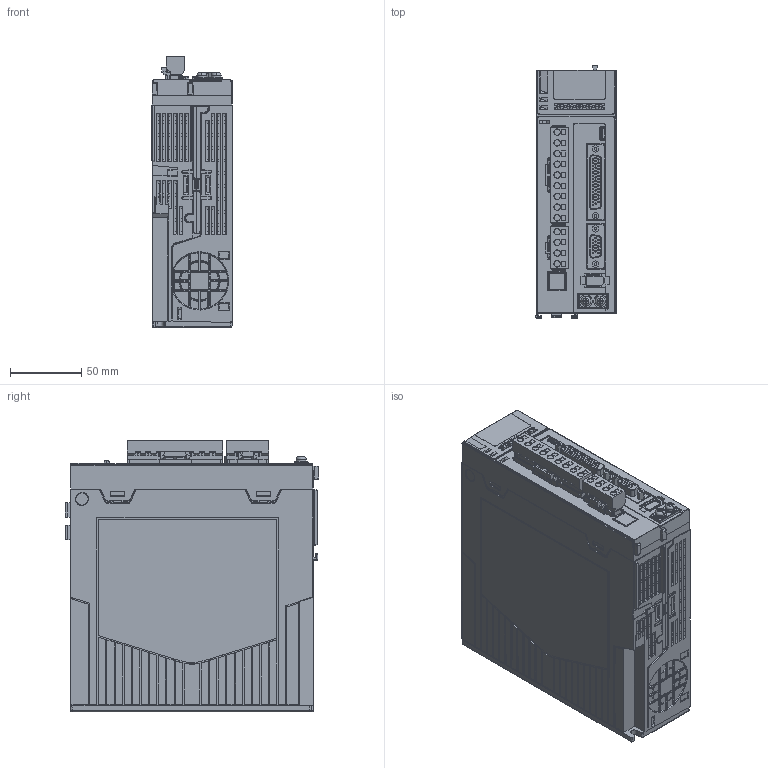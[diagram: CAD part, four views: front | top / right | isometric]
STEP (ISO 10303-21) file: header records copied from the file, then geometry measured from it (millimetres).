
FILE_DESCRIPTION((''),'2;1');
FILE_NAME('SV670P-SIZE-B_ASM_ASM','2022-09-28T',('l115853'),(''),'CREO PARAMETRIC BY PTC INC, 2015290','CREO PARAMETRIC BY PTC INC, 2015290','');
FILE_SCHEMA(('AUTOMOTIVE_DESIGN { 1 0 10303 214 1 1 1 1 }'));
Products named in the file (6): MSBR-5; MSBR-4; MSBR-3; MSBR-2; MSBR-1; SV670P-SIZE-B_ASM_ASM
Assembly tree (5 placements, depth 2):
  SV670P-SIZE-B_ASM_ASM
    MSBR-5
    MSBR-4
    MSBR-3
    MSBR-2
    MSBR-1
Bounding box: 56.09 x 177.5 x 190.2 mm (x, y, z)
Volume: 1649618.5 mm3; surface area: 123145.1 mm2
Topology: 5 solids, 8 shells, 4777 faces, 12503 edges, 7916 vertices
Faces by surface type: plane 2860, cylinder 1030, bspline 304, cone 225, extrusion 177, torus 122, sphere 59
Entity records: 216274 total; most frequent: CARTESIAN_POINT 68011, ORIENTED_EDGE 24868, DIRECTION 21412, EDGE_CURVE 12434, VECTOR 8882, LINE 8705, VERTEX_POINT 7916, AXIS2_PLACEMENT_3D 6265
